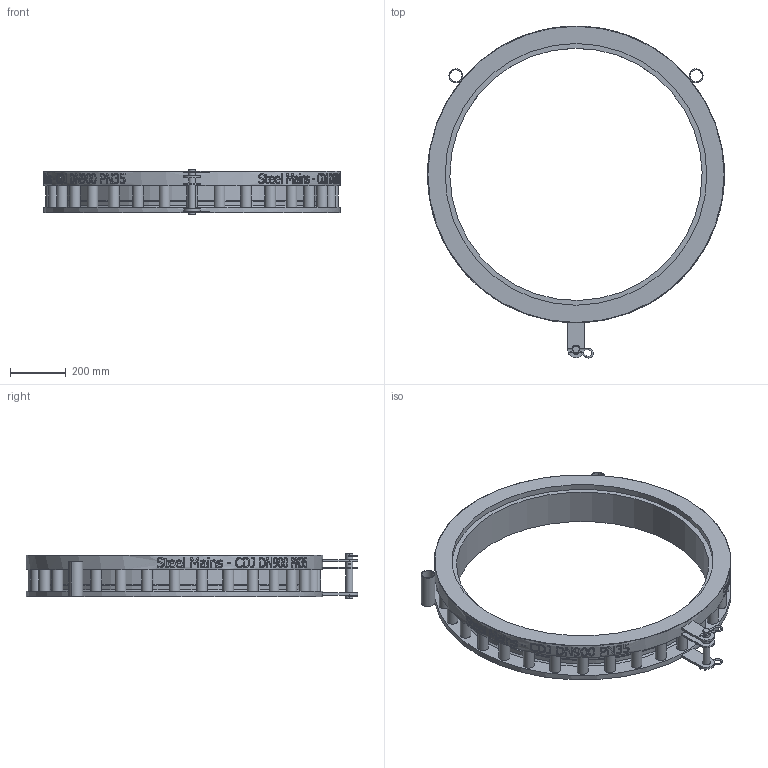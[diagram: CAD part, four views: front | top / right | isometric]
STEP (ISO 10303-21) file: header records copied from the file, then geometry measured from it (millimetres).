
FILE_DESCRIPTION(/* description */ (''),/* implementation_level */ '2;1');
FILE_NAME(/* name */ 'C:\Vault\Designs\Somerton\196\196-43 Models\Marketing Files\SteelMains - CDJ DN900 PN35 - (196-43T rev D).stp',/* time_stamp */ '2025-09-29T13:14:42+10:00',/* author */ ('Sam.Cavallaro'),/* organization */ (''),/* preprocessor_version */ 'ST-DEVELOPER v18.1',/* originating_system */ 'Autodesk Inventor 2021',/* authorisation */ '');
FILE_SCHEMA (('AUTOMOTIVE_DESIGN { 1 0 10303 214 3 1 1 }'));
Length unit declared in the file: millimetre
Products named in the file (1): SPS_ENG-084881
Bounding box: 1066 x 1192.16 x 161 mm (x, y, z)
Volume: 23382005.2 mm3; surface area: 2167965.5 mm2
Topology: 6 solids, 6 shells, 867 faces, 2366 edges, 1579 vertices
Faces by surface type: bspline 426, plane 297, cylinder 131, torus 8, cone 5
Full cylindrical faces by diameter (mm): 4.8 x10, 6 x3, 25 x1, 30 x3, 39 x32, 44 x2, 906 x1, 934 x1, 938 x1, 940 x1, 1066 x1
Entity records: 38734 total; most frequent: CARTESIAN_POINT 18904, ORIENTED_EDGE 4738, DIRECTION 2807, EDGE_CURVE 2369, VERTEX_POINT 1582, LINE 1071, VECTOR 1071, EDGE_LOOP 1017
